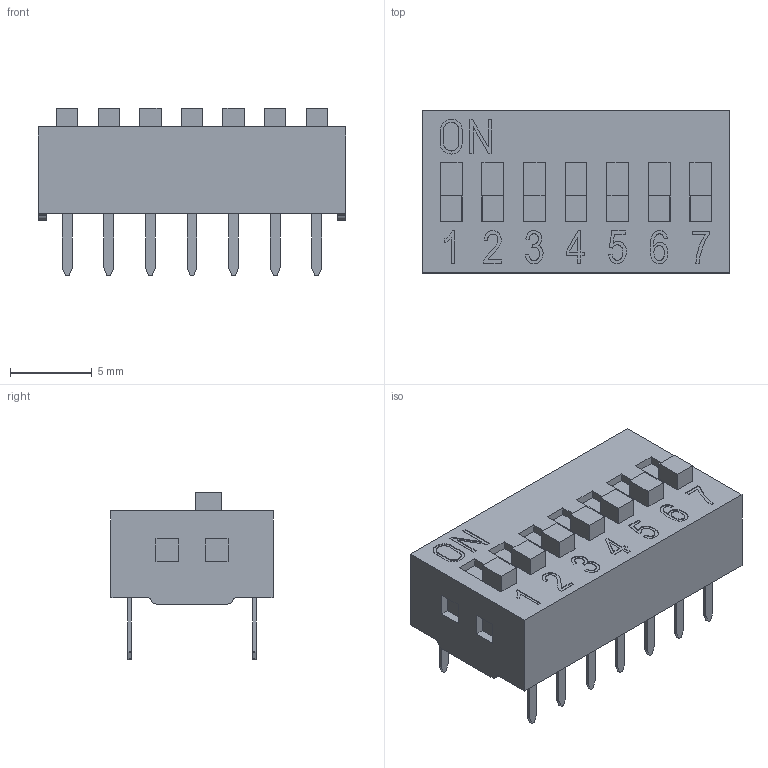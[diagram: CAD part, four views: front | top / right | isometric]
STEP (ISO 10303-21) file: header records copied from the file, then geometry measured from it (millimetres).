
FILE_DESCRIPTION(('FreeCAD Model'),'2;1');
FILE_NAME('C:/Users/Metaltex-99/Desktop/DS-07.stp','2020-08-11T08:50:48' ,('Engenharia Metaltex'),('Metaltex'), 'Open CASCADE STEP processor 7.3','FreeCAD','Unknown');
FILE_SCHEMA(('AUTOMOTIVE_DESIGN { 1 0 10303 214 1 1 1 1 }'));
Length unit declared in the file: millimetre
Products named in the file (1): DS-07
Bounding box: 18.78 x 9.9 x 10.25 mm (x, y, z)
Surface area: 2059.8 mm2 (no closed solid volume)
Topology: 0 solids, 23 shells, 540 faces, 1383 edges, 922 vertices
Faces by surface type: plane 417, cylinder 64, bspline 59
Entity records: 34975 total; most frequent: CARTESIAN_POINT 7499, DIRECTION 4767, LINE 3539, VECTOR 3539, ORIENTED_EDGE 2766, PCURVE 2766, DEFINITIONAL_REPRESENTATION 2766, EDGE_CURVE 1383
